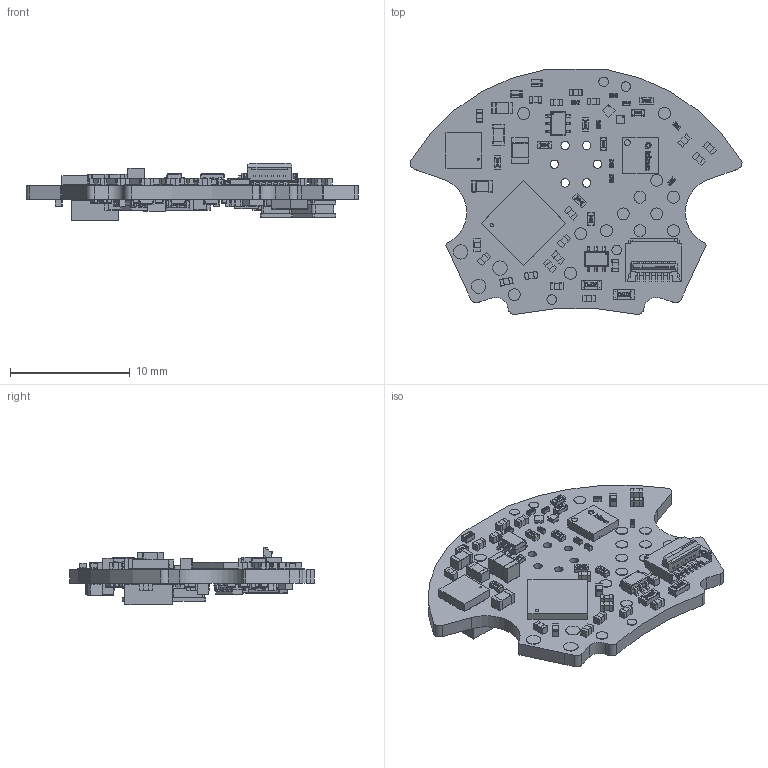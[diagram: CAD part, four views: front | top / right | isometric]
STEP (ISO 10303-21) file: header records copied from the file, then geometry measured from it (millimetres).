
FILE_DESCRIPTION(('Open CASCADE Model'),'2;1');
FILE_NAME('Open CASCADE Shape Model','2023-10-02T10:15:55',('Author'),( 'Open CASCADE'),'Open CASCADE STEP processor 7.5','Open CASCADE 7.5' ,'Unknown');
FILE_SCHEMA(('AUTOMOTIVE_DESIGN { 1 0 10303 214 1 1 1 1 }'));
Length unit declared in the file: millimetre
Products named in the file (146): Open CASCADE STEP translator 7.5 1; Open CASCADE STEP translator 7.5 2; Open CASCADE STEP translator 7.5 3; Open CASCADE STEP translator 7.5 4; Open CASCADE STEP translator 7.5 5; Open CASCADE STEP translator 7.5 6; Open CASCADE STEP translator 7.5 7; Open CASCADE STEP translator 7.5 8; Open CASCADE STEP translator 7.5 9; Open CASCADE STEP translator 7.5 10; Open CASCADE STEP translator 7.5 11; Open CASCADE STEP translator 7.5 12; Open CASCADE STEP translator 7.5 13; Open CASCADE STEP translator 7.5 14; Open CASCADE STEP translator 7.5 15; Open CASCADE STEP translator 7.5 16; Open CASCADE STEP translator 7.5 17; Open CASCADE STEP translator 7.5 18; Open CASCADE STEP translator 7.5 19; Open CASCADE STEP translator 7.5 20; Open CASCADE STEP translator 7.5 21; Open CASCADE STEP translator 7.5 22; Open CASCADE STEP translator 7.5 23; Open CASCADE STEP translator 7.5 24; Open CASCADE STEP translator 7.5 25; Open CASCADE STEP translator 7.5 26; Open CASCADE STEP translator 7.5 27; Open CASCADE STEP translator 7.5 28; Open CASCADE STEP translator 7.5 29; Open CASCADE STEP translator 7.5 30; Open CASCADE STEP translator 7.5 31; Open CASCADE STEP translator 7.5 32; Open CASCADE STEP translator 7.5 33; Open CASCADE STEP translator 7.5 34; Open CASCADE STEP translator 7.5 35; Open CASCADE STEP translator 7.5 36; Open CASCADE STEP translator 7.5 37; Open CASCADE STEP translator 7.5 38; Open CASCADE STEP translator 7.5 39; Open CASCADE STEP translator 7.5 40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
Bounding box: 27.72 x 20.46 x 4.84 mm (x, y, z)
Volume: 600 mm3; surface area: 1817.6 mm2
Topology: 515 solids, 515 shells, 11444 faces, 28292 edges, 17600 vertices
Faces by surface type: plane 7316, cylinder 2084, bspline 1367, sphere 660, torus 17
Full cylindrical faces by diameter (mm): 0.036 x1, 0.037 x1, 0.043 x1, 0.15 x1, 0.25 x1, 0.7 x6, 0.8 x4, 1 x13, 1.2 x3
Entity records: 468269 total; most frequent: CARTESIAN_POINT 166913, ORIENTED_EDGE 55142, DIRECTION 47064, EDGE_CURVE 27571, LINE 20856, VECTOR 20856, VERTEX_POINT 17524, AXIS2_PLACEMENT_3D 13104
